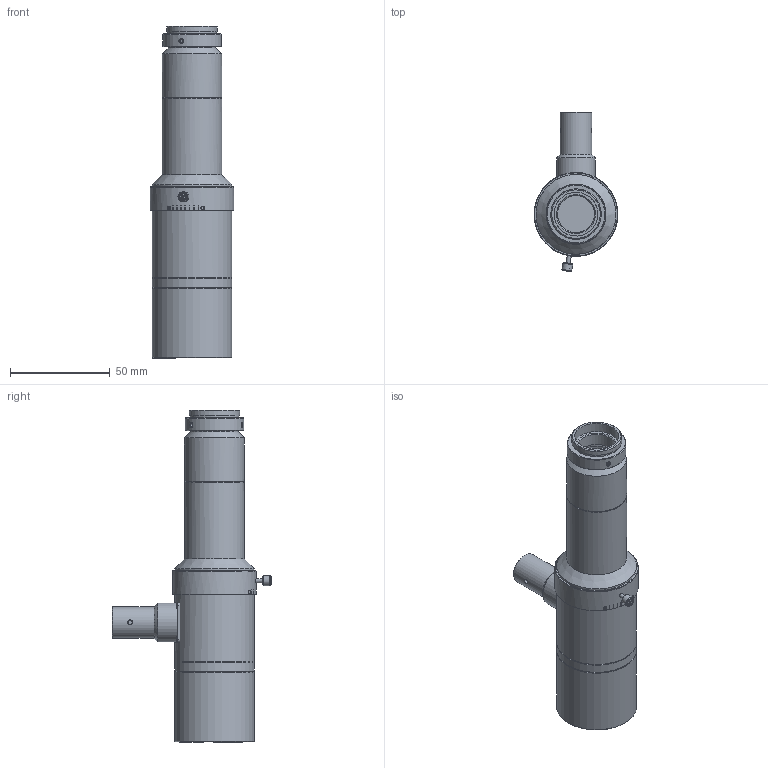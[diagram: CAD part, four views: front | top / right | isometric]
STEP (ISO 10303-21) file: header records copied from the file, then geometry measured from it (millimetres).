
FILE_DESCRIPTION(('STEP AP214'),'1');
FILE_NAME('TPC2-HMS110D-VIE-FIL.stp','2026-06-02T07:05:14',(' '),(' '),'Spatial InterOp 3D',' ',' ');
FILE_SCHEMA(('AUTOMOTIVE_DESIGN { 1 0 10303 214 1 1 1 1 }'));
Length unit declared in the file: metre
Products named in the file (2): TPC2-HMS110D-VIE-FIL; Component1
Assembly tree (1 placements, depth 2):
  TPC2-HMS110D-VIE-FIL
    Component1
Bounding box: 42 x 79.91 x 166.37 mm (x, y, z)
Volume: 34532.6 mm3; surface area: 47254.6 mm2
Topology: 1 solids, 2 shells, 460 faces, 1127 edges, 724 vertices
Faces by surface type: plane 214, cone 106, cylinder 66, bspline 59, torus 8, sphere 7
Full cylindrical faces by diameter (mm): 2 x6, 2.3 x4, 2.5 x3, 3.6 x1, 5 x1, 6 x1, 8 x1, 14 x1, 14.2 x1, 15.8 x1, 17 x1, 18.5 x1, 19.5 x1, 22 x1, 23.4 x1, 24 x2, 24.3 x1, 25 x1, 25.3 x1, 27 x2, 27.6 x1, 29.5 x1, 30 x2, 33.5 x1, 34 x1, 34.4 x1, 36.9 x2, 37 x1, 37.2 x1, 37.9 x1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
Entity records: 22980 total; most frequent: CARTESIAN_POINT 9638, ORIENTED_EDGE 1908, DIRECTION 1839, EDGE_CURVE 954, AXIS2_PLACEMENT_3D 757, VERTEX_POINT 664, EDGE_LOOP 640, FACE_OUTER_BOUND 521
